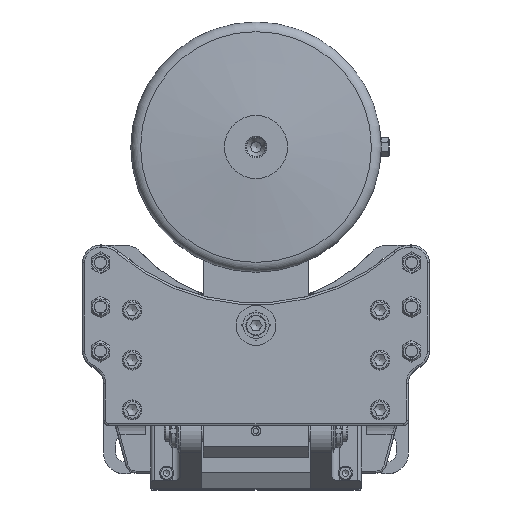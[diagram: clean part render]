
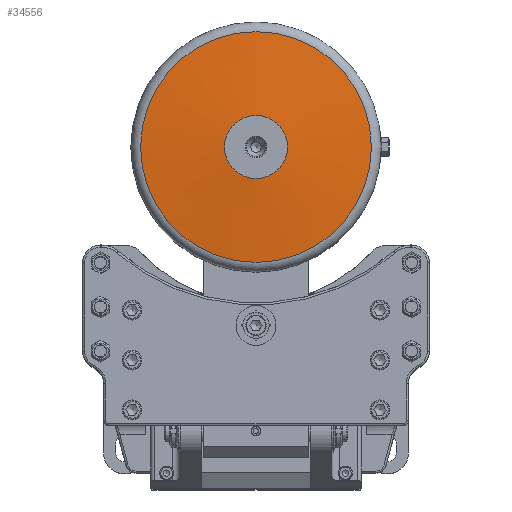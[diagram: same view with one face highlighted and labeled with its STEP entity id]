
A CAD part, top view. The second image highlights one B-rep face of the part: STEP entity #34556.
In plain terms, the highlighted conical face has half-angle 85.426 degrees and reference radius 69.899 mm.
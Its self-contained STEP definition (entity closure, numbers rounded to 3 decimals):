
#834=CONICAL_SURFACE('',#38101,69.899,1.491);
#3404=LINE('',#65934,#5689);
#5689=VECTOR('',#47168,69.899);
#8507=FACE_OUTER_BOUND('',#10635,.T.);
#10635=EDGE_LOOP('',(#29995,#29996,#29997,#29998,#29999,#30000,#30001));
#12550=CIRCLE('',#38102,30.);
#12551=CIRCLE('',#38103,30.);
#12552=CIRCLE('',#38104,109.797);
#12553=CIRCLE('',#38105,109.797);
#12554=CIRCLE('',#38106,109.797);
#15895=VERTEX_POINT('',#65929);
#15896=VERTEX_POINT('',#65930);
#15897=VERTEX_POINT('',#65933);
#15898=VERTEX_POINT('',#65935);
#15899=VERTEX_POINT('',#65937);
#20687=EDGE_CURVE('',#15895,#15896,#12550,.T.);
#20688=EDGE_CURVE('',#15896,#15895,#12551,.T.);
#20689=EDGE_CURVE('',#15896,#15897,#3404,.T.);
#20690=EDGE_CURVE('',#15897,#15898,#12552,.T.);
#20691=EDGE_CURVE('',#15898,#15899,#12553,.T.);
#20692=EDGE_CURVE('',#15899,#15897,#12554,.T.);
#29995=ORIENTED_EDGE('',*,*,#20687,.F.);
#29996=ORIENTED_EDGE('',*,*,#20688,.F.);
#29997=ORIENTED_EDGE('',*,*,#20689,.T.);
#29998=ORIENTED_EDGE('',*,*,#20690,.T.);
#29999=ORIENTED_EDGE('',*,*,#20691,.T.);
#30000=ORIENTED_EDGE('',*,*,#20692,.T.);
#30001=ORIENTED_EDGE('',*,*,#20689,.F.);
#34556=ADVANCED_FACE('',(#8507),#834,.T.);
#38101=AXIS2_PLACEMENT_3D('',#65928,#47162,#47163);
#38102=AXIS2_PLACEMENT_3D('',#65931,#47164,#47165);
#38103=AXIS2_PLACEMENT_3D('',#65932,#47166,#47167);
#38104=AXIS2_PLACEMENT_3D('',#65936,#47169,#47170);
#38105=AXIS2_PLACEMENT_3D('',#65938,#47171,#47172);
#38106=AXIS2_PLACEMENT_3D('',#65939,#47173,#47174);
#47162=DIRECTION('center_axis',(0.,0.,
-1.));
#47163=DIRECTION('ref_axis',(0.,-1.,0.));
#47164=DIRECTION('center_axis',(0.,0.,
1.));
#47165=DIRECTION('ref_axis',(0.,-1.,0.));
#47166=DIRECTION('center_axis',(0.,0.,
1.));
#47167=DIRECTION('ref_axis',(0.,-1.,0.));
#47168=DIRECTION('',(0.,0.997,-0.08));
#47169=DIRECTION('center_axis',(0.,0.,
1.));
#47170=DIRECTION('ref_axis',(0.,-1.,0.));
#47171=DIRECTION('center_axis',(0.,0.,
1.));
#47172=DIRECTION('ref_axis',(0.,-1.,0.));
#47173=DIRECTION('center_axis',(0.,0.,
1.));
#47174=DIRECTION('ref_axis',(0.,-1.,0.));
#65928=CARTESIAN_POINT('Origin',(0.,265.,
357.408));
#65929=CARTESIAN_POINT('',(0.,235.,360.6));
#65930=CARTESIAN_POINT('',(0.,295.,360.6));
#65931=CARTESIAN_POINT('Origin',(0.,265.,
360.6));
#65932=CARTESIAN_POINT('Origin',(0.,265.,
360.6));
#65933=CARTESIAN_POINT('',(0.,374.797,354.216));
#65934=CARTESIAN_POINT('',(0.,334.899,357.408));
#65935=CARTESIAN_POINT('',(0.,155.203,354.216));
#65936=CARTESIAN_POINT('Origin',(0.,265.,
354.216));
#65937=CARTESIAN_POINT('',(109.797,265.,354.216));
#65938=CARTESIAN_POINT('Origin',(0.,265.,
354.216));
#65939=CARTESIAN_POINT('Origin',(0.,265.,
354.216));
